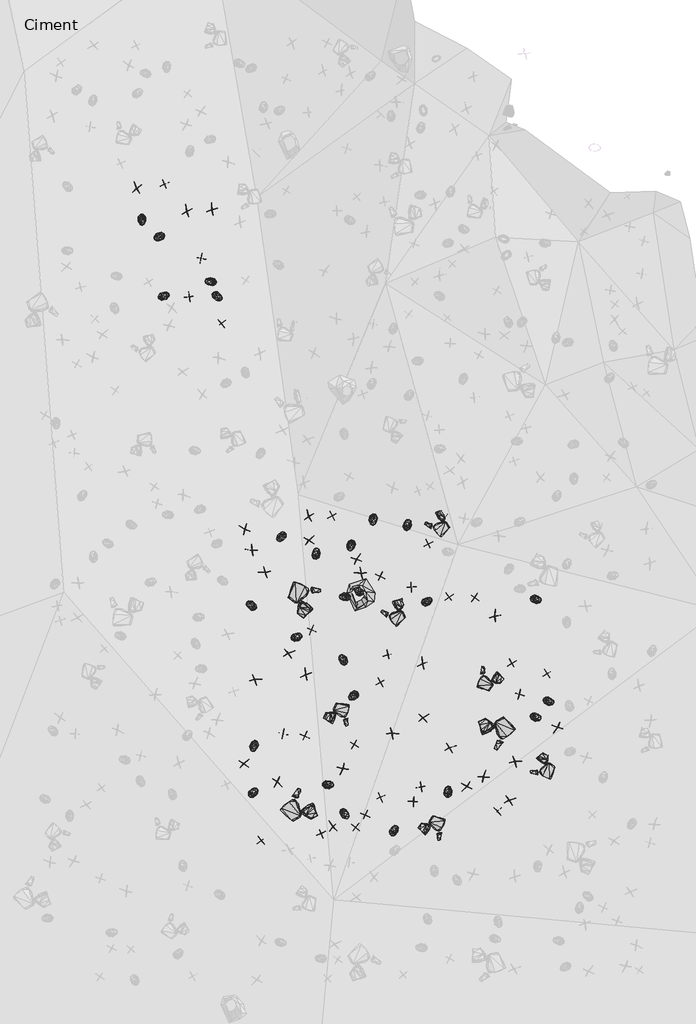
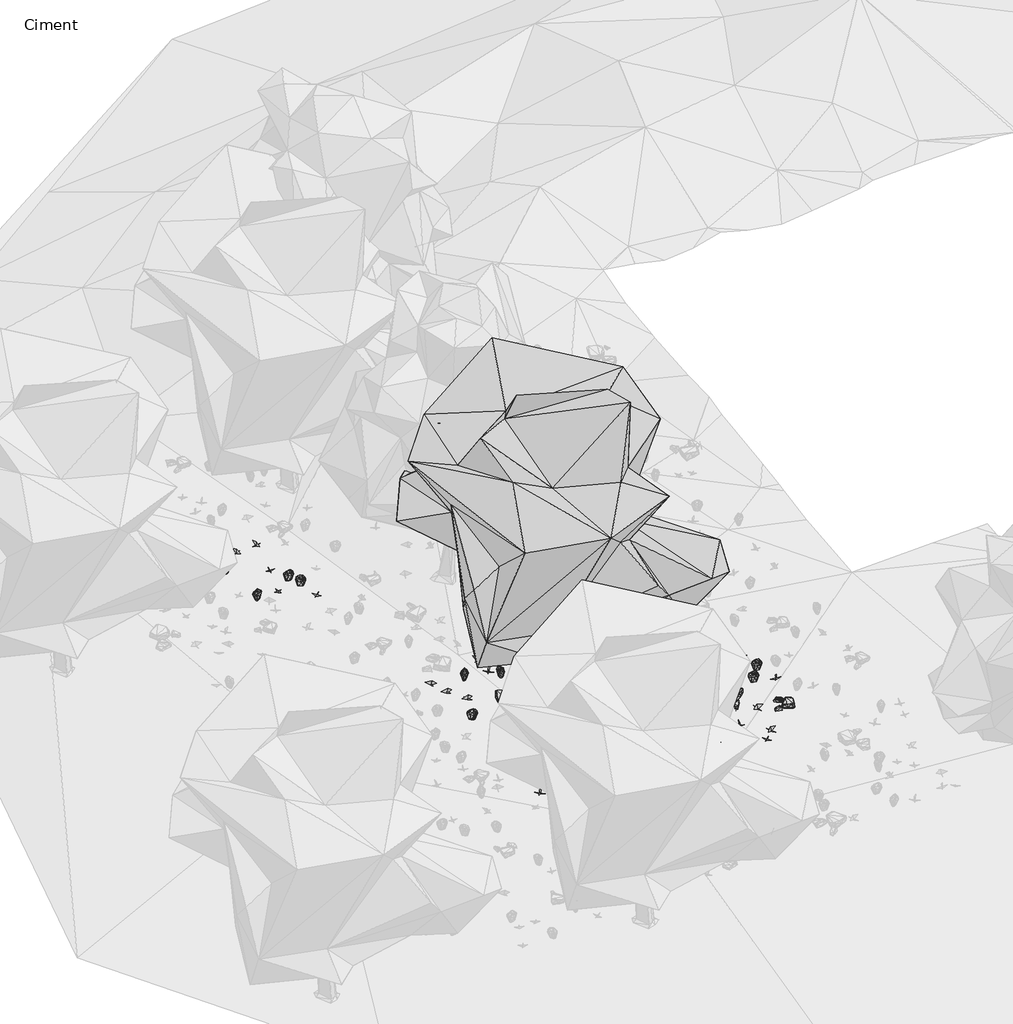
# One storey, part 8 of 30: 90 geographic elements.
"""IFC4 building model written with IfcOpenShell, lengths in millimetres."""

from ifc_helpers import new_model, si_unit, origin, place, context, project, spatial, transform, mapped, element, save
from components import enscape_assetdefinition_bush_025_fern_enscape_5718bf32, enscape_assetdefinition_bush_054_plant_09_version_2_enscape_7b546a12, enscape_assetdefinition_bush_062_plant_09_version_3_enscape_ccf8c8eb, enscape_assetdefinition_deciduous_tree_029_elm_enscape_e4c49baf, enscape_assetdefinition_stone_013_group_enscape_516da325, enscape_assetdefinition_stone_013_group_enscape_db9b3e91

model = new_model("IFC4")

# Units and contexts
model_context = context("Model", 3, world=origin())
ifc_project = project(units=[si_unit("LENGTHUNIT", "METRE", prefix="MILLI")], contexts=[model_context])

# Site, building, storey
site = spatial("IfcSite", under=ifc_project)
building = spatial("IfcBuilding", under=site)
storey = spatial("IfcBuildingStorey", under=building, Name="Ciment", Elevation=-1500.0)

# Geographic elements
placement = place(None, origin())
enscape_assetdefinition_bush_025_fern_enscape_shape = enscape_assetdefinition_bush_025_fern_enscape_5718bf32(model_context)
element("IfcGeographicElement", 1, ObjectType="Enscape AssetDefinition - Bush 025 Fern : Enscape AssetDefinition - Bush 025 Fern", at=placement, inside=storey, context=model_context, shape_type="MappedRepresentation", body=[
    mapped(enscape_assetdefinition_bush_025_fern_enscape_shape, transform((-13719.6578979, -14634.2067719, -1984.1752052), x_axis=(0.9903845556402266, 0.1383417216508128, 0.0), y_axis=(-0.1383417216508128, 0.9903845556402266, 0.0), z_axis=(0.0, 0.0, 1.0))),
])
element("IfcGeographicElement", 2, ObjectType="Enscape AssetDefinition - Bush 025 Fern : Enscape AssetDefinition - Bush 025 Fern", at=placement, inside=storey, context=model_context, shape_type="MappedRepresentation", body=[
    mapped(enscape_assetdefinition_bush_025_fern_enscape_shape, transform((-13326.6649246, -10060.4276657, -1879.3945312), x_axis=(-0.9968542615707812, -0.07925642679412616, 0.0), y_axis=(0.07925642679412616, -0.9968542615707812, 0.0), z_axis=(0.0, 0.0, 1.0))),
])
element("IfcGeographicElement", 3, ObjectType="Enscape AssetDefinition - Bush 025 Fern : Enscape AssetDefinition - Bush 025 Fern", at=placement, inside=storey, context=model_context, shape_type="MappedRepresentation", body=[
    mapped(enscape_assetdefinition_bush_025_fern_enscape_shape, transform((-13116.350174, -12467.5197601, -1879.3325424), x_axis=(-0.7084550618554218, -0.7057559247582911, 0.0), y_axis=(0.7057559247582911, -0.7084550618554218, 0.0), z_axis=(0.0, 0.0, 1.0))),
])
element("IfcGeographicElement", 4, ObjectType="Enscape AssetDefinition - Bush 025 Fern : Enscape AssetDefinition - Bush 025 Fern", at=placement, inside=storey, context=model_context, shape_type="MappedRepresentation", body=[
    mapped(enscape_assetdefinition_bush_025_fern_enscape_shape, transform((-11796.754837, -8313.0111694, -1644.9592113), x_axis=(0.17525786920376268, 0.9845225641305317, 0.0), y_axis=(-0.9845225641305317, 0.17525786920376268, 0.0), z_axis=(0.0, 0.0, 1.0))),
])
element("IfcGeographicElement", 5, ObjectType="Enscape AssetDefinition - Bush 025 Fern : Enscape AssetDefinition - Bush 025 Fern", at=placement, inside=storey, context=model_context, shape_type="MappedRepresentation", body=[
    mapped(enscape_assetdefinition_bush_025_fern_enscape_shape, transform((-15535.4719162, -13693.6130524, -2000.0), x_axis=(-0.2224626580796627, -0.9749412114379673, 0.0), y_axis=(0.9749412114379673, -0.2224626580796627, 0.0), z_axis=(0.0, 0.0, 1.0))),
])
element("IfcGeographicElement", 6, ObjectType="Enscape AssetDefinition - Bush 025 Fern : Enscape AssetDefinition - Bush 025 Fern", at=placement, inside=storey, context=model_context, shape_type="MappedRepresentation", body=[
    mapped(enscape_assetdefinition_bush_025_fern_enscape_shape, transform((-12985.8837128, -9904.176712, -1832.4915171), x_axis=(-0.6513720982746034, 0.7587584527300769, 0.0), y_axis=(-0.7587584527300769, -0.6513720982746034, 0.0), z_axis=(0.0, 0.0, 1.0))),
])
element("IfcGeographicElement", 7, ObjectType="Enscape AssetDefinition - Bush 025 Fern : Enscape AssetDefinition - Bush 025 Fern", at=placement, inside=storey, context=model_context, shape_type="MappedRepresentation", body=[
    mapped(enscape_assetdefinition_bush_025_fern_enscape_shape, transform((-15539.2799377, -14818.9258575, -2000.0), x_axis=(0.5987200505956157, 0.8009583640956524, 0.0), y_axis=(-0.8009583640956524, 0.5987200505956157, 0.0), z_axis=(0.0, 0.0, 1.0))),
])
element("IfcGeographicElement", 8, ObjectType="Enscape AssetDefinition - Bush 025 Fern : Enscape AssetDefinition - Bush 025 Fern", at=placement, inside=storey, context=model_context, shape_type="MappedRepresentation", body=[
    mapped(enscape_assetdefinition_bush_025_fern_enscape_shape, transform((-14870.557785, -8609.3769073, -2000.0), x_axis=(-0.5475795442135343, -0.8367536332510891, 0.0), y_axis=(0.8367536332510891, -0.5475795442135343, 0.0), z_axis=(0.0, 0.0, 1.0))),
])
element("IfcGeographicElement", 9, ObjectType="Enscape AssetDefinition - Bush 025 Fern : Enscape AssetDefinition - Bush 025 Fern", at=placement, inside=storey, context=model_context, shape_type="MappedRepresentation", body=[
    mapped(enscape_assetdefinition_bush_025_fern_enscape_shape, transform((-13325.9849548, -15345.7651138, -1940.2848482), x_axis=(0.7220434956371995, -0.691847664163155, 0.0), y_axis=(0.691847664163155, 0.7220434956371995, 0.0), z_axis=(0.0, 0.0, 1.0))),
])
element("IfcGeographicElement", 10, ObjectType="Enscape AssetDefinition - Bush 025 Fern : Enscape AssetDefinition - Bush 025 Fern", at=placement, inside=storey, context=model_context, shape_type="MappedRepresentation", body=[
    mapped(enscape_assetdefinition_bush_025_fern_enscape_shape, transform((-8679.233551, -12991.5094376, -1569.719553), x_axis=(0.9857635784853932, -0.16813734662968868, 0.0), y_axis=(0.16813734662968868, 0.9857635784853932, 0.0), z_axis=(0.0, 0.0, 1.0))),
])
element("IfcGeographicElement", 11, ObjectType="Enscape AssetDefinition - Bush 025 Fern : Enscape AssetDefinition - Bush 025 Fern", at=placement, inside=storey, context=model_context, shape_type="MappedRepresentation", body=[
    mapped(enscape_assetdefinition_bush_025_fern_enscape_shape, transform((-16586.7385864, -2403.2783508, -1999.9998808), x_axis=(-0.9987314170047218, 0.05035431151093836, 0.0), y_axis=(-0.05035431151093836, -0.9987314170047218, 0.0), z_axis=(0.0, 0.0, 1.0))),
])
element("IfcGeographicElement", 12, ObjectType="Enscape AssetDefinition - Bush 025 Fern : Enscape AssetDefinition - Bush 025 Fern", at=placement, inside=storey, context=model_context, shape_type="MappedRepresentation", body=[
    mapped(enscape_assetdefinition_bush_025_fern_enscape_shape, transform((-12118.0391312, -15739.3894196, -1856.6175699), x_axis=(0.4254606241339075, 0.9049769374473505, 0.0), y_axis=(-0.9049769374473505, 0.4254606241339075, 0.0), z_axis=(0.0, 0.0, 1.0))),
])
element("IfcGeographicElement", 13, ObjectType="Enscape AssetDefinition - Bush 025 Fern : Enscape AssetDefinition - Bush 025 Fern", at=placement, inside=storey, context=model_context, shape_type="MappedRepresentation", body=[
    mapped(enscape_assetdefinition_bush_025_fern_enscape_shape, transform((-8360.414505, -12606.3938141, -1537.9221439), x_axis=(0.9773561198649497, -0.2116010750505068, 0.0), y_axis=(0.2116010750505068, 0.9773561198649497, 0.0), z_axis=(0.0, 0.0, 1.0))),
])
element("IfcGeographicElement", 14, ObjectType="Enscape AssetDefinition - Bush 025 Fern : Enscape AssetDefinition - Bush 025 Fern", at=placement, inside=storey, context=model_context, shape_type="MappedRepresentation", body=[
    mapped(enscape_assetdefinition_bush_025_fern_enscape_shape, transform((-14486.243248, -11044.2218781, -2000.0), x_axis=(0.8874941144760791, 0.4608190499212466, 0.0), y_axis=(-0.4608190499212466, 0.8874941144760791, 0.0), z_axis=(0.0, 0.0, 1.0))),
])
element("IfcGeographicElement", 15, ObjectType="Enscape AssetDefinition - Bush 025 Fern : Enscape AssetDefinition - Bush 025 Fern", at=placement, inside=storey, context=model_context, shape_type="MappedRepresentation", body=[
    mapped(enscape_assetdefinition_bush_025_fern_enscape_shape, transform((-16418.8270569, -2774.2729187, -2000.0), x_axis=(0.8705373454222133, -0.4921023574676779, 0.0), y_axis=(0.4921023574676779, 0.8705373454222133, 0.0), z_axis=(0.0, 0.0, 1.0))),
])
element("IfcGeographicElement", 16, ObjectType="Enscape AssetDefinition - Bush 025 Fern : Enscape AssetDefinition - Bush 025 Fern", at=placement, inside=storey, context=model_context, shape_type="MappedRepresentation", body=[
    mapped(enscape_assetdefinition_bush_025_fern_enscape_shape, transform((-13361.8402481, -11585.7982635, -1901.6488791), x_axis=(-0.5956452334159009, 0.8032476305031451, 0.0), y_axis=(-0.8032476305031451, -0.5956452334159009, 0.0), z_axis=(0.0, 0.0, 1.0))),
])
element("IfcGeographicElement", 17, ObjectType="Enscape AssetDefinition - Bush 025 Fern : Enscape AssetDefinition - Bush 025 Fern", at=placement, inside=storey, context=model_context, shape_type="MappedRepresentation", body=[
    mapped(enscape_assetdefinition_bush_025_fern_enscape_shape, transform((-18258.3427429, -911.2911224, -1999.9998808), x_axis=(0.17856568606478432, -0.9839279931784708, 0.0), y_axis=(0.9839279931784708, 0.17856568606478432, 0.0), z_axis=(0.0, 0.0, 1.0))),
])
element("IfcGeographicElement", 18, ObjectType="Enscape AssetDefinition - Bush 025 Fern : Enscape AssetDefinition - Bush 025 Fern", at=placement, inside=storey, context=model_context, shape_type="MappedRepresentation", body=[
    mapped(enscape_assetdefinition_bush_025_fern_enscape_shape, transform((-13177.4244308, -8820.1332092, -1845.333457), x_axis=(-0.13979803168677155, -0.9901800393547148, 0.0), y_axis=(0.9901800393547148, -0.13979803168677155, 0.0), z_axis=(0.0, 0.0, 1.0))),
])
element("IfcGeographicElement", 19, ObjectType="Enscape AssetDefinition - Bush 025 Fern : Enscape AssetDefinition - Bush 025 Fern", at=placement, inside=storey, context=model_context, shape_type="MappedRepresentation", body=[
    mapped(enscape_assetdefinition_bush_025_fern_enscape_shape, transform((-12636.9419098, -8195.5070496, -1766.5976286), x_axis=(-0.00019454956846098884, -0.9999999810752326, 0.0), y_axis=(0.9999999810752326, -0.00019454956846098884, 0.0), z_axis=(0.0, 0.0, 1.0))),
])
element("IfcGeographicElement", 20, ObjectType="Enscape AssetDefinition - Bush 025 Fern : Enscape AssetDefinition - Bush 025 Fern", at=placement, inside=storey, context=model_context, shape_type="MappedRepresentation", body=[
    mapped(enscape_assetdefinition_bush_025_fern_enscape_shape, transform((-11317.440033, -10180.1967621, -1614.8686409), x_axis=(0.8137922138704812, 0.58115594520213, 0.0), y_axis=(-0.58115594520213, 0.8137922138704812, 0.0), z_axis=(0.0, 0.0, 1.0))),
])
element("IfcGeographicElement", 21, ObjectType="Enscape AssetDefinition - Bush 025 Fern : Enscape AssetDefinition - Bush 025 Fern", at=placement, inside=storey, context=model_context, shape_type="MappedRepresentation", body=[
    mapped(enscape_assetdefinition_bush_025_fern_enscape_shape, transform((-8671.3943481, -10133.0394745, -1455.3124905), x_axis=(0.9908873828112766, -0.1346929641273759, 0.0), y_axis=(0.1346929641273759, 0.9908873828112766, 0.0), z_axis=(0.0, 0.0, 1.0))),
])
element("IfcGeographicElement", 22, ObjectType="Enscape AssetDefinition - Bush 025 Fern : Enscape AssetDefinition - Bush 025 Fern", at=placement, inside=storey, context=model_context, shape_type="MappedRepresentation", body=[
    mapped(enscape_assetdefinition_bush_025_fern_enscape_shape, transform((-17715.3339386, -2757.5302124, -1999.9998808), x_axis=(0.8753885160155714, 0.4834200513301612, 0.0), y_axis=(-0.4834200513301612, 0.8753885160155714, 0.0), z_axis=(0.0, 0.0, 1.0))),
])
element("IfcGeographicElement", 23, ObjectType="Enscape AssetDefinition - Bush 025 Fern : Enscape AssetDefinition - Bush 025 Fern", at=placement, inside=storey, context=model_context, shape_type="MappedRepresentation", body=[
    mapped(enscape_assetdefinition_bush_025_fern_enscape_shape, transform((-17837.5339508, -1318.71593, -1999.9998808), x_axis=(-0.8460780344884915, -0.5330590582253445, 0.0), y_axis=(0.5330590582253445, -0.8460780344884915, 0.0), z_axis=(0.0, 0.0, 1.0))),
])
element("IfcGeographicElement", 24, ObjectType="Enscape AssetDefinition - Bush 025 Fern : Enscape AssetDefinition - Bush 025 Fern", at=placement, inside=storey, context=model_context, shape_type="MappedRepresentation", body=[
    mapped(enscape_assetdefinition_bush_025_fern_enscape_shape, transform((-10809.047699, -14792.9620743, -1751.3799667), x_axis=(-0.10500228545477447, 0.994471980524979, 0.0), y_axis=(-0.994471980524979, -0.10500228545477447, 0.0), z_axis=(0.0, 0.0, 1.0))),
])
element("IfcGeographicElement", 25, ObjectType="Enscape AssetDefinition - Bush 025 Fern : Enscape AssetDefinition - Bush 025 Fern", at=placement, inside=storey, context=model_context, shape_type="MappedRepresentation", body=[
    mapped(enscape_assetdefinition_bush_025_fern_enscape_shape, transform((-15596.1408615, -10268.0635452, -2000.0), x_axis=(-0.8809618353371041, 0.4731873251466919, 0.0), y_axis=(-0.4731873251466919, -0.8809618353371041, 0.0), z_axis=(0.0, 0.0, 1.0))),
])
element("IfcGeographicElement", 26, ObjectType="Enscape AssetDefinition - Bush 025 Fern : Enscape AssetDefinition - Bush 025 Fern", at=placement, inside=storey, context=model_context, shape_type="MappedRepresentation", body=[
    mapped(enscape_assetdefinition_bush_025_fern_enscape_shape, transform((-14014.1639709, -9010.4846954, -1958.2667351), x_axis=(0.04009681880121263, 0.9991957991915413, 0.0), y_axis=(-0.9991957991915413, 0.04009681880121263, 0.0), z_axis=(0.0, 0.0, 1.0))),
])
enscape_assetdefinition_bush_054_plant_09_version_2_enscape_shape = enscape_assetdefinition_bush_054_plant_09_version_2_enscape_7b546a12(model_context)
element("IfcGeographicElement", 27, ObjectType="Enscape AssetDefinition - Bush 054 Plant 09, Version 2 : Enscape AssetDefinition - Bush 054 Plant 09, Version 2", at=placement, inside=storey, context=model_context, shape_type="MappedRepresentation", body=[
    mapped(enscape_assetdefinition_bush_054_plant_09_version_2_enscape_shape, transform((-13892.0211792, -15814.5112991, -2000.0), x_axis=(-0.42888223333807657, 0.9033604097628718, 0.0), y_axis=(-0.9033604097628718, -0.42888223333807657, 0.0), z_axis=(0.0, 0.0, 1.0))),
])
element("IfcGeographicElement", 28, ObjectType="Enscape AssetDefinition - Bush 054 Plant 09, Version 2 : Enscape AssetDefinition - Bush 054 Plant 09, Version 2", at=placement, inside=storey, context=model_context, shape_type="MappedRepresentation", body=[
    mapped(enscape_assetdefinition_bush_054_plant_09_version_2_enscape_shape, transform((-10793.1995392, -10070.7378387, -1562.228322), x_axis=(0.6428494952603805, -0.7659925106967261, 0.0), y_axis=(0.7659925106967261, 0.6428494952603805, 0.0), z_axis=(0.0, 0.0, 1.0))),
])
element("IfcGeographicElement", 29, ObjectType="Enscape AssetDefinition - Bush 054 Plant 09, Version 2 : Enscape AssetDefinition - Bush 054 Plant 09, Version 2", at=placement, inside=storey, context=model_context, shape_type="MappedRepresentation", body=[
    mapped(enscape_assetdefinition_bush_054_plant_09_version_2_enscape_shape, transform((-12277.9827118, -11474.1382599, -1756.9192648), x_axis=(0.27146856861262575, -0.9624473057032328, 0.0), y_axis=(0.9624473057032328, 0.27146856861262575, 0.0), z_axis=(0.0, 0.0, 1.0))),
])
element("IfcGeographicElement", 30, ObjectType="Enscape AssetDefinition - Bush 054 Plant 09, Version 2 : Enscape AssetDefinition - Bush 054 Plant 09, Version 2", at=placement, inside=storey, context=model_context, shape_type="MappedRepresentation", body=[
    mapped(enscape_assetdefinition_bush_054_plant_09_version_2_enscape_shape, transform((-14126.7089844, -10865.0684357, -1994.5585728), x_axis=(-0.9405869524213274, 0.3395529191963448, 0.0), y_axis=(-0.3395529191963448, -0.9405869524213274, 0.0), z_axis=(0.0, 0.0, 1.0))),
])
element("IfcGeographicElement", 31, ObjectType="Enscape AssetDefinition - Bush 054 Plant 09, Version 2 : Enscape AssetDefinition - Bush 054 Plant 09, Version 2", at=placement, inside=storey, context=model_context, shape_type="MappedRepresentation", body=[
    mapped(enscape_assetdefinition_bush_054_plant_09_version_2_enscape_shape, transform((-10159.9569321, -10081.8920135, -1530.0227404), x_axis=(-0.8554348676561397, 0.5179104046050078, 0.0), y_axis=(-0.5179104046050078, -0.8554348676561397, 0.0), z_axis=(0.0, 0.0, 1.0))),
])
element("IfcGeographicElement", 32, ObjectType="Enscape AssetDefinition - Bush 054 Plant 09, Version 2 : Enscape AssetDefinition - Bush 054 Plant 09, Version 2", at=placement, inside=storey, context=model_context, shape_type="MappedRepresentation", body=[
    mapped(enscape_assetdefinition_bush_054_plant_09_version_2_enscape_shape, transform((-14816.3032532, -13387.4568939, -2000.0), x_axis=(-0.9888610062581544, 0.14884189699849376, 0.0), y_axis=(-0.14884189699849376, -0.9888610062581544, 0.0), z_axis=(0.0, 0.0, 1.0))),
])
element("IfcGeographicElement", 33, ObjectType="Enscape AssetDefinition - Bush 054 Plant 09, Version 2 : Enscape AssetDefinition - Bush 054 Plant 09, Version 2", at=placement, inside=storey, context=model_context, shape_type="MappedRepresentation", body=[
    mapped(enscape_assetdefinition_bush_054_plant_09_version_2_enscape_shape, transform((-9070.2209473, -12426.1951447, -1567.3332214), x_axis=(-0.9807696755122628, 0.19516875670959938, 0.0), y_axis=(-0.19516875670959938, -0.9807696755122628, 0.0), z_axis=(0.0, 0.0, 1.0))),
])
element("IfcGeographicElement", 34, ObjectType="Enscape AssetDefinition - Bush 054 Plant 09, Version 2 : Enscape AssetDefinition - Bush 054 Plant 09, Version 2", at=placement, inside=storey, context=model_context, shape_type="MappedRepresentation", body=[
    mapped(enscape_assetdefinition_bush_054_plant_09_version_2_enscape_shape, transform((-13087.1505737, -13651.0906219, -1889.124155), x_axis=(-0.884099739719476, 0.4672982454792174, 0.0), y_axis=(-0.4672982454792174, -0.884099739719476, 0.0), z_axis=(0.0, 0.0, 1.0))),
])
element("IfcGeographicElement", 35, ObjectType="Enscape AssetDefinition - Bush 054 Plant 09, Version 2 : Enscape AssetDefinition - Bush 054 Plant 09, Version 2", at=placement, inside=storey, context=model_context, shape_type="MappedRepresentation", body=[
    mapped(enscape_assetdefinition_bush_054_plant_09_version_2_enscape_shape, transform((-12458.6982727, -12146.5091705, -1788.5932922), x_axis=(0.8541403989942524, 0.5200424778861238, 0.0), y_axis=(-0.5200424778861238, 0.8541403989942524, 0.0), z_axis=(0.0, 0.0, 1.0))),
])
element("IfcGeographicElement", 36, ObjectType="Enscape AssetDefinition - Bush 054 Plant 09, Version 2 : Enscape AssetDefinition - Bush 054 Plant 09, Version 2", at=placement, inside=storey, context=model_context, shape_type="MappedRepresentation", body=[
    mapped(enscape_assetdefinition_bush_054_plant_09_version_2_enscape_shape, transform((-11472.694397, -14688.4326935, -1781.4289331), x_axis=(0.9814997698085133, 0.19146331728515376, 0.0), y_axis=(-0.19146331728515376, 0.9814997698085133, 0.0), z_axis=(0.0, 0.0, 1.0))),
])
element("IfcGeographicElement", 37, ObjectType="Enscape AssetDefinition - Bush 054 Plant 09, Version 2 : Enscape AssetDefinition - Bush 054 Plant 09, Version 2", at=placement, inside=storey, context=model_context, shape_type="MappedRepresentation", body=[
    mapped(enscape_assetdefinition_bush_054_plant_09_version_2_enscape_shape, transform((-17105.556488, -2781.9042206, -1999.9998808), x_axis=(0.9845447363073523, 0.1751332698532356, 0.0), y_axis=(-0.1751332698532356, 0.9845447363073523, 0.0), z_axis=(0.0, 0.0, 1.0))),
])
element("IfcGeographicElement", 38, ObjectType="Enscape AssetDefinition - Bush 054 Plant 09, Version 2 : Enscape AssetDefinition - Bush 054 Plant 09, Version 2", at=placement, inside=storey, context=model_context, shape_type="MappedRepresentation", body=[
    mapped(enscape_assetdefinition_bush_054_plant_09_version_2_enscape_shape, transform((-16811.4337921, -1839.9238586, -1999.9998808), x_axis=(-0.9892102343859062, 0.14650294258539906, 0.0), y_axis=(-0.14650294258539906, -0.9892102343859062, 0.0), z_axis=(0.0, 0.0, 1.0))),
])
element("IfcGeographicElement", 39, ObjectType="Enscape AssetDefinition - Bush 054 Plant 09, Version 2 : Enscape AssetDefinition - Bush 054 Plant 09, Version 2", at=placement, inside=storey, context=model_context, shape_type="MappedRepresentation", body=[
    mapped(enscape_assetdefinition_bush_054_plant_09_version_2_enscape_shape, transform((-11658.6837769, -15045.5379486, -1805.2606583), x_axis=(0.9999875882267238, 0.0049823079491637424, 0.0), y_axis=(-0.0049823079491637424, 0.9999875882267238, 0.0), z_axis=(0.0, 0.0, 1.0))),
])
element("IfcGeographicElement", 40, ObjectType="Enscape AssetDefinition - Bush 054 Plant 09, Version 2 : Enscape AssetDefinition - Bush 054 Plant 09, Version 2", at=placement, inside=storey, context=model_context, shape_type="MappedRepresentation", body=[
    mapped(enscape_assetdefinition_bush_054_plant_09_version_2_enscape_shape, transform((-11702.3658752, -9822.1759796, -1661.6802216), x_axis=(-0.9932121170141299, -0.11631719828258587, 0.0), y_axis=(0.11631719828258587, -0.9932121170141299, 0.0), z_axis=(0.0, 0.0, 1.0))),
])
element("IfcGeographicElement", 41, ObjectType="Enscape AssetDefinition - Bush 054 Plant 09, Version 2 : Enscape AssetDefinition - Bush 054 Plant 09, Version 2", at=placement, inside=storey, context=model_context, shape_type="MappedRepresentation", body=[
    mapped(enscape_assetdefinition_bush_054_plant_09_version_2_enscape_shape, transform((-13060.1596832, -15660.364151, -1908.7343216), x_axis=(-0.5707366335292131, -0.8211331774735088, 0.0), y_axis=(0.8211331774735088, -0.5707366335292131, 0.0), z_axis=(0.0, 0.0, 1.0))),
])
element("IfcGeographicElement", 42, ObjectType="Enscape AssetDefinition - Bush 054 Plant 09, Version 2 : Enscape AssetDefinition - Bush 054 Plant 09, Version 2", at=placement, inside=storey, context=model_context, shape_type="MappedRepresentation", body=[
    mapped(enscape_assetdefinition_bush_054_plant_09_version_2_enscape_shape, transform((-15353.2295227, -15990.8924103, -2034.0294838), x_axis=(0.7594251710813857, 0.6505946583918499, 0.0), y_axis=(-0.6505946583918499, 0.7594251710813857, 0.0), z_axis=(0.0, 0.0, 1.0))),
])
element("IfcGeographicElement", 43, ObjectType="Enscape AssetDefinition - Bush 054 Plant 09, Version 2 : Enscape AssetDefinition - Bush 054 Plant 09, Version 2", at=placement, inside=storey, context=model_context, shape_type="MappedRepresentation", body=[
    mapped(enscape_assetdefinition_bush_054_plant_09_version_2_enscape_shape, transform((-14298.4790802, -13445.0206757, -2000.0), x_axis=(-0.34829103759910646, -0.9373864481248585, 0.0), y_axis=(0.9373864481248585, -0.34829103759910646, 0.0), z_axis=(0.0, 0.0, 1.0))),
])
element("IfcGeographicElement", 44, ObjectType="Enscape AssetDefinition - Bush 054 Plant 09, Version 2 : Enscape AssetDefinition - Bush 054 Plant 09, Version 2", at=placement, inside=storey, context=model_context, shape_type="MappedRepresentation", body=[
    mapped(enscape_assetdefinition_bush_054_plant_09_version_2_enscape_shape, transform((-13626.4314651, -8101.4041901, -1896.463871), x_axis=(0.8552108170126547, 0.5182802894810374, 0.0), y_axis=(-0.5182802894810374, 0.8552108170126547, 0.0), z_axis=(0.0, 0.0, 1.0))),
])
element("IfcGeographicElement", 45, ObjectType="Enscape AssetDefinition - Bush 054 Plant 09, Version 2 : Enscape AssetDefinition - Bush 054 Plant 09, Version 2", at=placement, inside=storey, context=model_context, shape_type="MappedRepresentation", body=[
    mapped(enscape_assetdefinition_bush_054_plant_09_version_2_enscape_shape, transform((-16322.0233917, -3418.1499481, -2000.0), x_axis=(-0.7417731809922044, -0.6706508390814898, 0.0), y_axis=(0.6706508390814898, -0.7417731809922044, 0.0), z_axis=(0.0, 0.0, 1.0))),
])
element("IfcGeographicElement", 46, ObjectType="Enscape AssetDefinition - Bush 054 Plant 09, Version 2 : Enscape AssetDefinition - Bush 054 Plant 09, Version 2", at=placement, inside=storey, context=model_context, shape_type="MappedRepresentation", body=[
    mapped(enscape_assetdefinition_bush_054_plant_09_version_2_enscape_shape, transform((-8403.1629562, -11935.6555939, -1513.3755207), x_axis=(0.8224795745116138, 0.5687946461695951, 0.0), y_axis=(-0.5687946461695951, 0.8224795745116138, 0.0), z_axis=(0.0, 0.0, 1.0))),
])
element("IfcGeographicElement", 47, ObjectType="Enscape AssetDefinition - Bush 054 Plant 09, Version 2 : Enscape AssetDefinition - Bush 054 Plant 09, Version 2", at=placement, inside=storey, context=model_context, shape_type="MappedRepresentation", body=[
    mapped(enscape_assetdefinition_bush_054_plant_09_version_2_enscape_shape, transform((-12464.4794464, -9562.6888275, -1759.5475912), x_axis=(-0.35326382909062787, -0.9355237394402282, 0.0), y_axis=(0.9355237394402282, -0.35326382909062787, 0.0), z_axis=(0.0, 0.0, 1.0))),
])
element("IfcGeographicElement", 48, ObjectType="Enscape AssetDefinition - Bush 054 Plant 09, Version 2 : Enscape AssetDefinition - Bush 054 Plant 09, Version 2", at=placement, inside=storey, context=model_context, shape_type="MappedRepresentation", body=[
    mapped(enscape_assetdefinition_bush_054_plant_09_version_2_enscape_shape, transform((-11297.662735, -8782.7796936, -1596.128583), x_axis=(0.4938073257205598, -0.8695713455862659, 0.0), y_axis=(0.8695713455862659, 0.4938073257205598, 0.0), z_axis=(0.0, 0.0, 1.0))),
])
element("IfcGeographicElement", 49, ObjectType="Enscape AssetDefinition - Bush 054 Plant 09, Version 2 : Enscape AssetDefinition - Bush 054 Plant 09, Version 2", at=placement, inside=storey, context=model_context, shape_type="MappedRepresentation", body=[
    mapped(enscape_assetdefinition_bush_054_plant_09_version_2_enscape_shape, transform((-9266.7074203, -11679.8725128, -1547.6984978), x_axis=(0.5610076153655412, -0.8278106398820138, 0.0), y_axis=(0.8278106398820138, 0.5610076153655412, 0.0), z_axis=(0.0, 0.0, 1.0))),
])
element("IfcGeographicElement", 50, ObjectType="Enscape AssetDefinition - Bush 054 Plant 09, Version 2 : Enscape AssetDefinition - Bush 054 Plant 09, Version 2", at=placement, inside=storey, context=model_context, shape_type="MappedRepresentation", body=[
    mapped(enscape_assetdefinition_bush_054_plant_09_version_2_enscape_shape, transform((-12827.5222778, -15360.3343964, -1878.0814409), x_axis=(-0.3757129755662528, -0.9267360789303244, 0.0), y_axis=(0.9267360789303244, -0.3757129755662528, 0.0), z_axis=(0.0, 0.0, 1.0))),
])
element("IfcGeographicElement", 51, ObjectType="Enscape AssetDefinition - Bush 054 Plant 09, Version 2 : Enscape AssetDefinition - Bush 054 Plant 09, Version 2", at=placement, inside=storey, context=model_context, shape_type="MappedRepresentation", body=[
    mapped(enscape_assetdefinition_bush_054_plant_09_version_2_enscape_shape, transform((-17709.3887329, -43.4017144, -1999.9998808), x_axis=(0.4387954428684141, -0.8985869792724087, 0.0), y_axis=(0.8985869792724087, 0.4387954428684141, 0.0), z_axis=(0.0, 0.0, 1.0))),
])
element("IfcGeographicElement", 52, ObjectType="Enscape AssetDefinition - Bush 054 Plant 09, Version 2 : Enscape AssetDefinition - Bush 054 Plant 09, Version 2", at=placement, inside=storey, context=model_context, shape_type="MappedRepresentation", body=[
    mapped(enscape_assetdefinition_bush_054_plant_09_version_2_enscape_shape, transform((-9608.5157394, -15266.5576935, -1756.0130358), x_axis=(-0.7076741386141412, -0.7065389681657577, 0.0), y_axis=(0.7065389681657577, -0.7076741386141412, 0.0), z_axis=(0.0, 0.0, 1.0))),
])
element("IfcGeographicElement", 53, ObjectType="Enscape AssetDefinition - Bush 054 Plant 09, Version 2 : Enscape AssetDefinition - Bush 054 Plant 09, Version 2", at=placement, inside=storey, context=model_context, shape_type="MappedRepresentation", body=[
    mapped(enscape_assetdefinition_bush_054_plant_09_version_2_enscape_shape, transform((-12455.6560516, -14928.5449982, -1841.6866064), x_axis=(-0.8943191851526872, -0.4474295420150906, 0.0), y_axis=(0.4474295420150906, -0.8943191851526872, 0.0), z_axis=(0.0, 0.0, 1.0))),
])
enscape_assetdefinition_bush_062_plant_09_version_3_enscape_shape = enscape_assetdefinition_bush_062_plant_09_version_3_enscape_ccf8c8eb(model_context)
element("IfcGeographicElement", 54, ObjectType="Enscape AssetDefinition - Bush 062 Plant 09, Version 3 : Enscape AssetDefinition - Bush 062 Plant 09, Version 3", at=placement, inside=storey, context=model_context, shape_type="MappedRepresentation", body=[
    mapped(enscape_assetdefinition_bush_062_plant_09_version_3_enscape_shape, transform((-14200.3755569, -8099.1458893, -1972.3960161), x_axis=(0.776147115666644, 0.6305518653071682, 0.0), y_axis=(-0.6305518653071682, 0.776147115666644, 0.0), z_axis=(0.0, 0.0, 1.0))),
])
element("IfcGeographicElement", 55, ObjectType="Enscape AssetDefinition - Bush 062 Plant 09, Version 3 : Enscape AssetDefinition - Bush 062 Plant 09, Version 3", at=placement, inside=storey, context=model_context, shape_type="MappedRepresentation", body=[
    mapped(enscape_assetdefinition_bush_062_plant_09_version_3_enscape_shape, transform((-15587.8219604, -8936.7256165, -2000.0), x_axis=(-0.2486082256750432, 0.968604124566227, 0.0), y_axis=(-0.968604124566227, -0.2486082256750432, 0.0), z_axis=(0.0, 0.0, 1.0))),
])
element("IfcGeographicElement", 56, ObjectType="Enscape AssetDefinition - Bush 062 Plant 09, Version 3 : Enscape AssetDefinition - Bush 062 Plant 09, Version 3", at=placement, inside=storey, context=model_context, shape_type="MappedRepresentation", body=[
    mapped(enscape_assetdefinition_bush_062_plant_09_version_3_enscape_shape, transform((-12161.3960266, -13375.9937286, -1764.5952702), x_axis=(0.2944899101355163, -0.9556545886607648, 0.0), y_axis=(0.9556545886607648, 0.2944899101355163, 0.0), z_axis=(0.0, 0.0, 1.0))),
])
element("IfcGeographicElement", 57, ObjectType="Enscape AssetDefinition - Bush 062 Plant 09, Version 3 : Enscape AssetDefinition - Bush 062 Plant 09, Version 3", at=placement, inside=storey, context=model_context, shape_type="MappedRepresentation", body=[
    mapped(enscape_assetdefinition_bush_062_plant_09_version_3_enscape_shape, transform((-15769.5322037, -14110.2685928, -2000.0), x_axis=(0.8885622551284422, -0.45875605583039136, 0.0), y_axis=(0.45875605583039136, 0.8885622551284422, 0.0), z_axis=(0.0, 0.0, 1.0))),
])
element("IfcGeographicElement", 58, ObjectType="Enscape AssetDefinition - Bush 062 Plant 09, Version 3 : Enscape AssetDefinition - Bush 062 Plant 09, Version 3", at=placement, inside=storey, context=model_context, shape_type="MappedRepresentation", body=[
    mapped(enscape_assetdefinition_bush_062_plant_09_version_3_enscape_shape, transform((-17164.5050049, -690.3438568, -1999.9998808), x_axis=(0.8405035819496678, 0.541805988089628, 0.0), y_axis=(-0.541805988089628, 0.8405035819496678, 0.0), z_axis=(0.0, 0.0, 1.0))),
])
element("IfcGeographicElement", 59, ObjectType="Enscape AssetDefinition - Bush 062 Plant 09, Version 3 : Enscape AssetDefinition - Bush 062 Plant 09, Version 3", at=placement, inside=storey, context=model_context, shape_type="MappedRepresentation", body=[
    mapped(enscape_assetdefinition_bush_062_plant_09_version_3_enscape_shape, transform((-12937.1156693, -9491.9223785, -1821.2811947), x_axis=(-0.30252836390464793, 0.953140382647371, 0.0), y_axis=(-0.953140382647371, -0.30252836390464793, 0.0), z_axis=(0.0, 0.0, 1.0))),
])
element("IfcGeographicElement", 60, ObjectType="Enscape AssetDefinition - Bush 062 Plant 09, Version 3 : Enscape AssetDefinition - Bush 062 Plant 09, Version 3", at=placement, inside=storey, context=model_context, shape_type="MappedRepresentation", body=[
    mapped(enscape_assetdefinition_bush_062_plant_09_version_3_enscape_shape, transform((-10764.4309998, -13728.0139923, -1706.6062689), x_axis=(0.6388796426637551, -0.7693067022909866, 0.0), y_axis=(0.7693067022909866, 0.6388796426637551, 0.0), z_axis=(0.0, 0.0, 1.0))),
])
element("IfcGeographicElement", 61, ObjectType="Enscape AssetDefinition - Bush 062 Plant 09, Version 3 : Enscape AssetDefinition - Bush 062 Plant 09, Version 3", at=placement, inside=storey, context=model_context, shape_type="MappedRepresentation", body=[
    mapped(enscape_assetdefinition_bush_062_plant_09_version_3_enscape_shape, transform((-11410.4919434, -12994.6422577, -1710.6686831), x_axis=(0.7920904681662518, -0.6104037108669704, 0.0), y_axis=(0.6104037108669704, 0.7920904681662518, 0.0), z_axis=(0.0, 0.0, 1.0))),
])
element("IfcGeographicElement", 62, ObjectType="Enscape AssetDefinition - Bush 062 Plant 09, Version 3 : Enscape AssetDefinition - Bush 062 Plant 09, Version 3", at=placement, inside=storey, context=model_context, shape_type="MappedRepresentation", body=[
    mapped(enscape_assetdefinition_bush_062_plant_09_version_3_enscape_shape, transform((-11433.9237213, -11679.8534393, -1659.440279), x_axis=(0.8853069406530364, 0.46500711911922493, 0.0), y_axis=(-0.46500711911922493, 0.8853069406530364, 0.0), z_axis=(0.0, 0.0, 1.0))),
])
element("IfcGeographicElement", 63, ObjectType="Enscape AssetDefinition - Bush 062 Plant 09, Version 3 : Enscape AssetDefinition - Bush 062 Plant 09, Version 3", at=placement, inside=storey, context=model_context, shape_type="MappedRepresentation", body=[
    mapped(enscape_assetdefinition_bush_062_plant_09_version_3_enscape_shape, transform((-13615.4298782, -15637.389183, -1981.9555283), x_axis=(0.5649349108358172, 0.825135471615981, 0.0), y_axis=(-0.825135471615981, 0.5649349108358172, 0.0), z_axis=(0.0, 0.0, 1.0))),
])
element("IfcGeographicElement", 64, ObjectType="Enscape AssetDefinition - Bush 062 Plant 09, Version 3 : Enscape AssetDefinition - Bush 062 Plant 09, Version 3", at=placement, inside=storey, context=model_context, shape_type="MappedRepresentation", body=[
    mapped(enscape_assetdefinition_bush_062_plant_09_version_3_enscape_shape, transform((-10365.190506, -14679.5701981, -1723.9720821), x_axis=(-0.9290867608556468, 0.3698618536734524, 0.0), y_axis=(-0.3698618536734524, -0.9290867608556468, 0.0), z_axis=(0.0, 0.0, 1.0))),
])
element("IfcGeographicElement", 65, ObjectType="Enscape AssetDefinition - Bush 062 Plant 09, Version 3 : Enscape AssetDefinition - Bush 062 Plant 09, Version 3", at=placement, inside=storey, context=model_context, shape_type="MappedRepresentation", body=[
    mapped(enscape_assetdefinition_bush_062_plant_09_version_3_enscape_shape, transform((-16553.6270142, -648.3688354, -1999.9998808), x_axis=(0.9090173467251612, 0.4167582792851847, 0.0), y_axis=(-0.4167582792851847, 0.9090173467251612, 0.0), z_axis=(0.0, 0.0, 1.0))),
])
element("IfcGeographicElement", 66, ObjectType="Enscape AssetDefinition - Bush 062 Plant 09, Version 3 : Enscape AssetDefinition - Bush 062 Plant 09, Version 3", at=placement, inside=storey, context=model_context, shape_type="MappedRepresentation", body=[
    mapped(enscape_assetdefinition_bush_062_plant_09_version_3_enscape_shape, transform((-15269.0858841, -9470.4828262, -2000.0), x_axis=(-0.3843798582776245, 0.9231750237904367, 0.0), y_axis=(-0.9231750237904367, -0.3843798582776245, 0.0), z_axis=(0.0, 0.0, 1.0))),
])
element("IfcGeographicElement", 67, ObjectType="Enscape AssetDefinition - Bush 062 Plant 09, Version 3 : Enscape AssetDefinition - Bush 062 Plant 09, Version 3", at=placement, inside=storey, context=model_context, shape_type="MappedRepresentation", body=[
    mapped(enscape_assetdefinition_bush_062_plant_09_version_3_enscape_shape, transform((-13029.4799805, -9143.0721283, -1829.4796944), x_axis=(0.9794618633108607, -0.20162950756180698, 0.0), y_axis=(0.20162950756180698, 0.9794618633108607, 0.0), z_axis=(0.0, 0.0, 1.0))),
])
element("IfcGeographicElement", 68, ObjectType="Enscape AssetDefinition - Bush 062 Plant 09, Version 3 : Enscape AssetDefinition - Bush 062 Plant 09, Version 3", at=placement, inside=storey, context=model_context, shape_type="MappedRepresentation", body=[
    mapped(enscape_assetdefinition_bush_062_plant_09_version_3_enscape_shape, transform((-14683.5374832, -11432.264328, -2000.0), x_axis=(0.680119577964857, -0.733101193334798, 0.0), y_axis=(0.733101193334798, 0.680119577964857, 0.0), z_axis=(0.0, 0.0, 1.0))),
])
element("IfcGeographicElement", 69, ObjectType="Enscape AssetDefinition - Bush 062 Plant 09, Version 3 : Enscape AssetDefinition - Bush 062 Plant 09, Version 3", at=placement, inside=storey, context=model_context, shape_type="MappedRepresentation", body=[
    mapped(enscape_assetdefinition_bush_062_plant_09_version_3_enscape_shape, transform((-9948.2164383, -14425.9662628, -1692.3590899), x_axis=(0.997830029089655, 0.06584248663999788, 0.0), y_axis=(-0.06584248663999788, 0.997830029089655, 0.0), z_axis=(0.0, 0.0, 1.0))),
])
element("IfcGeographicElement", 70, ObjectType="Enscape AssetDefinition - Bush 062 Plant 09, Version 3 : Enscape AssetDefinition - Bush 062 Plant 09, Version 3", at=placement, inside=storey, context=model_context, shape_type="MappedRepresentation", body=[
    mapped(enscape_assetdefinition_bush_062_plant_09_version_3_enscape_shape, transform((-15495.8944321, -12075.5443573, -2000.0), x_axis=(0.4326700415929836, -0.9015523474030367, 0.0), y_axis=(0.9015523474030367, 0.4326700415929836, 0.0), z_axis=(0.0, 0.0, 1.0))),
])
element("IfcGeographicElement", 71, ObjectType="Enscape AssetDefinition - Bush 062 Plant 09, Version 3 : Enscape AssetDefinition - Bush 062 Plant 09, Version 3", at=placement, inside=storey, context=model_context, shape_type="MappedRepresentation", body=[
    mapped(enscape_assetdefinition_bush_062_plant_09_version_3_enscape_shape, transform((-13372.3058701, -14247.6511002, -1933.745265), x_axis=(-0.9992244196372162, 0.039377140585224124, 0.0), y_axis=(-0.039377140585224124, -0.9992244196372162, 0.0), z_axis=(0.0, 0.0, 1.0))),
])
element("IfcGeographicElement", 72, ObjectType="Enscape AssetDefinition - Bush 062 Plant 09, Version 3 : Enscape AssetDefinition - Bush 062 Plant 09, Version 3", at=placement, inside=storey, context=model_context, shape_type="MappedRepresentation", body=[
    mapped(enscape_assetdefinition_bush_062_plant_09_version_3_enscape_shape, transform((-8156.6143036, -13243.8793182, -1552.8380871), x_axis=(-0.9787351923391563, 0.2051278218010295, 0.0), y_axis=(-0.2051278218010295, -0.9787351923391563, 0.0), z_axis=(0.0, 0.0, 1.0))),
])
element("IfcGeographicElement", 73, ObjectType="Enscape AssetDefinition - Bush 062 Plant 09, Version 3 : Enscape AssetDefinition - Bush 062 Plant 09, Version 3", at=placement, inside=storey, context=model_context, shape_type="MappedRepresentation", body=[
    mapped(enscape_assetdefinition_bush_062_plant_09_version_3_enscape_shape, transform((-9311.0561371, -14998.8012314, -1727.4669409), x_axis=(0.6421911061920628, -0.7665445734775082, 0.0), y_axis=(0.7665445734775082, 0.6421911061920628, 0.0), z_axis=(0.0, 0.0, 1.0))),
])
element("IfcGeographicElement", 74, ObjectType="Enscape AssetDefinition - Bush 062 Plant 09, Version 3 : Enscape AssetDefinition - Bush 062 Plant 09, Version 3", at=placement, inside=storey, context=model_context, shape_type="MappedRepresentation", body=[
    mapped(enscape_assetdefinition_bush_062_plant_09_version_3_enscape_shape, transform((-18384.7999573, -133.3751678, -1999.9998808), x_axis=(0.7055568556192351, 0.7086533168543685, 0.0), y_axis=(-0.7086533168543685, 0.7055568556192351, 0.0), z_axis=(0.0, 0.0, 1.0))),
])
element("IfcGeographicElement", 75, ObjectType="Enscape AssetDefinition - Bush 062 Plant 09, Version 3 : Enscape AssetDefinition - Bush 062 Plant 09, Version 3", at=placement, inside=storey, context=model_context, shape_type="MappedRepresentation", body=[
    mapped(enscape_assetdefinition_bush_062_plant_09_version_3_enscape_shape, transform((-15762.7410889, -8420.9575653, -2000.0), x_axis=(0.15257209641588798, 0.9882923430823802, 0.0), y_axis=(-0.9882923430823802, 0.15257209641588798, 0.0), z_axis=(0.0, 0.0, 1.0))),
])
element("IfcGeographicElement", 76, ObjectType="Enscape AssetDefinition - Bush 062 Plant 09, Version 3 : Enscape AssetDefinition - Bush 062 Plant 09, Version 3", at=placement, inside=storey, context=model_context, shape_type="MappedRepresentation", body=[
    mapped(enscape_assetdefinition_bush_062_plant_09_version_3_enscape_shape, transform((-9173.9788055, -14059.3700409, -1637.8178596), x_axis=(0.4136957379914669, -0.9104151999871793, 0.0), y_axis=(0.9104151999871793, 0.4136957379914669, 0.0), z_axis=(0.0, 0.0, 1.0))),
])
element("IfcGeographicElement", 77, ObjectType="Enscape AssetDefinition - Bush 062 Plant 09, Version 3 : Enscape AssetDefinition - Bush 062 Plant 09, Version 3", at=placement, inside=storey, context=model_context, shape_type="MappedRepresentation", body=[
    mapped(enscape_assetdefinition_bush_062_plant_09_version_3_enscape_shape, transform((-14185.8024597, -8686.0485077, -1977.2386551), x_axis=(0.9159591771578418, -0.401271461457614, 0.0), y_axis=(0.401271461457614, 0.9159591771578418, 0.0), z_axis=(0.0, 0.0, 1.0))),
])
element("IfcGeographicElement", 78, ObjectType="Enscape AssetDefinition - Bush 062 Plant 09, Version 3 : Enscape AssetDefinition - Bush 062 Plant 09, Version 3", at=placement, inside=storey, context=model_context, shape_type="MappedRepresentation", body=[
    mapped(enscape_assetdefinition_bush_062_plant_09_version_3_enscape_shape, transform((-14954.7185898, -14569.2577362, -2000.0), x_axis=(-0.3612420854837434, -0.9324720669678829, 0.0), y_axis=(0.9324720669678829, -0.3612420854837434, 0.0), z_axis=(0.0, 0.0, 1.0))),
])
element("IfcGeographicElement", 79, ObjectType="Enscape AssetDefinition - Bush 062 Plant 09, Version 3 : Enscape AssetDefinition - Bush 062 Plant 09, Version 3", at=placement, inside=storey, context=model_context, shape_type="MappedRepresentation", body=[
    mapped(enscape_assetdefinition_bush_062_plant_09_version_3_enscape_shape, transform((-9673.6421585, -10524.9261856, -1522.6178169), x_axis=(0.9473115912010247, 0.3203135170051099, 0.0), y_axis=(-0.3203135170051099, 0.9473115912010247, 0.0), z_axis=(0.0, 0.0, 1.0))),
])
element("IfcGeographicElement", 80, ObjectType="Enscape AssetDefinition - Bush 062 Plant 09, Version 3 : Enscape AssetDefinition - Bush 062 Plant 09, Version 3", at=placement, inside=storey, context=model_context, shape_type="MappedRepresentation", body=[
    mapped(enscape_assetdefinition_bush_062_plant_09_version_3_enscape_shape, transform((-14274.4455338, -11947.0081329, -2000.0), x_axis=(0.8767331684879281, 0.480977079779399, 0.0), y_axis=(-0.480977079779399, 0.8767331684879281, 0.0), z_axis=(0.0, 0.0, 1.0))),
])
enscape_assetdefinition_deciduous_tree_029_elm_enscape_shape = enscape_assetdefinition_deciduous_tree_029_elm_enscape_e4c49baf(model_context)
element("IfcGeographicElement", 81, ObjectType="Enscape AssetDefinition - Deciduous Tree 029 Elm : Enscape AssetDefinition - Deciduous Tree 029 Elm", at=placement, inside=storey, context=model_context, shape_type="MappedRepresentation", body=[
    mapped(enscape_assetdefinition_deciduous_tree_029_elm_enscape_shape, transform((-12982.006073, -10050.5523682, -1771.8505859), x_axis=(1.0, 0.0, 0.0), y_axis=(0.0, 1.0, 0.0), z_axis=(0.0, 0.0, 1.0))),
])
enscape_assetdefinition_stone_013_group_enscape_shape = enscape_assetdefinition_stone_013_group_enscape_516da325(model_context)
element("IfcGeographicElement", 82, ObjectType="Enscape AssetDefinition - Stone 013 Group : Enscape AssetDefinition - Stone 013 Group", at=placement, inside=storey, context=model_context, shape_type="MappedRepresentation", body=[
    mapped(enscape_assetdefinition_stone_013_group_enscape_shape, transform((-14439.4435883, -15130.9175491, -2000.0), x_axis=(-0.6637124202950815, 0.7479878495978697, 0.0), y_axis=(-0.7479878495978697, -0.6637124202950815, 0.0), z_axis=(0.0, 0.0, 1.0))),
])
element("IfcGeographicElement", 83, ObjectType="Enscape AssetDefinition - Stone 013 Group : Enscape AssetDefinition - Stone 013 Group", at=placement, inside=storey, context=model_context, shape_type="MappedRepresentation", body=[
    mapped(enscape_assetdefinition_stone_013_group_enscape_shape, transform((-9625.3623962, -13365.2133942, -1633.4068775), x_axis=(0.6373105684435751, -0.7706070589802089, 0.0), y_axis=(0.7706070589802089, 0.6373105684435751, 0.0), z_axis=(0.0, 0.0, 1.0))),
])
element("IfcGeographicElement", 84, ObjectType="Enscape AssetDefinition - Stone 013 Group : Enscape AssetDefinition - Stone 013 Group", at=placement, inside=storey, context=model_context, shape_type="MappedRepresentation", body=[
    mapped(enscape_assetdefinition_stone_013_group_enscape_shape, transform((-14281.2271118, -10064.7716522, -2000.0), x_axis=(0.4154112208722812, 0.9096337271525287, 0.0), y_axis=(-0.9096337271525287, 0.4154112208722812, 0.0), z_axis=(0.0, 0.0, 1.0))),
])
enscape_assetdefinition_stone_013_group_enscape_2_shape = enscape_assetdefinition_stone_013_group_enscape_db9b3e91(model_context)
element("IfcGeographicElement", 85, ObjectType="Enscape AssetDefinition - Stone 013 Group : Enscape AssetDefinition - Stone 013 Group 2", at=placement, inside=storey, context=model_context, shape_type="MappedRepresentation", body=[
    mapped(enscape_assetdefinition_stone_013_group_enscape_2_shape, transform((-11065.8111572, -8276.4234543, -1517.7247524), x_axis=(-0.7293708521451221, -0.684118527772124, 0.0), y_axis=(0.684118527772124, -0.7293708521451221, 0.0), z_axis=(0.0, 0.0, 1.0))),
])
element("IfcGeographicElement", 86, ObjectType="Enscape AssetDefinition - Stone 013 Group : Enscape AssetDefinition - Stone 013 Group 2", at=placement, inside=storey, context=model_context, shape_type="MappedRepresentation", body=[
    mapped(enscape_assetdefinition_stone_013_group_enscape_2_shape, transform((-9837.2993469, -12036.8871689, -1591.3572311), x_axis=(-0.9246310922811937, 0.38086394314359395, 0.0), y_axis=(-0.38086394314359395, -0.9246310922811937, 0.0), z_axis=(0.0, 0.0, 1.0))),
])
element("IfcGeographicElement", 87, ObjectType="Enscape AssetDefinition - Stone 013 Group : Enscape AssetDefinition - Stone 013 Group 2", at=placement, inside=storey, context=model_context, shape_type="MappedRepresentation", body=[
    mapped(enscape_assetdefinition_stone_013_group_enscape_2_shape, transform((-8522.4170685, -14210.4167938, -1644.182682), x_axis=(-0.4390084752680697, -0.8984829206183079, 0.0), y_axis=(0.8984829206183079, -0.4390084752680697, 0.0), z_axis=(0.0, 0.0, 1.0))),
])
element("IfcGeographicElement", 88, ObjectType="Enscape AssetDefinition - Stone 013 Group : Enscape AssetDefinition - Stone 013 Group 2", at=placement, inside=storey, context=model_context, shape_type="MappedRepresentation", body=[
    mapped(enscape_assetdefinition_stone_013_group_enscape_2_shape, transform((-13446.9919205, -12951.3111115, -1928.6725521), x_axis=(0.9794708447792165, -0.20158587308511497, 0.0), y_axis=(0.20158587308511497, 0.9794708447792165, 0.0), z_axis=(0.0, 0.0, 1.0))),
])
element("IfcGeographicElement", 89, ObjectType="Enscape AssetDefinition - Stone 013 Group : Enscape AssetDefinition - Stone 013 Group 2", at=placement, inside=storey, context=model_context, shape_type="MappedRepresentation", body=[
    mapped(enscape_assetdefinition_stone_013_group_enscape_2_shape, transform((-11151.6418457, -15694.234848, -1811.0107183), x_axis=(0.923923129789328, -0.3825781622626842, 0.0), y_axis=(0.3825781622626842, 0.923923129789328, 0.0), z_axis=(0.0, 0.0, 1.0))),
])
element("IfcGeographicElement", 90, ObjectType="Enscape AssetDefinition - Stone 013 Group : Enscape AssetDefinition - Stone 013 Group 2", at=placement, inside=storey, context=model_context, shape_type="MappedRepresentation", body=[
    mapped(enscape_assetdefinition_stone_013_group_enscape_2_shape, transform((-12129.4307709, -10440.5231476, -1725.3338099), x_axis=(-0.7803572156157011, -0.6253340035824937, 0.0), y_axis=(0.6253340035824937, -0.7803572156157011, 0.0), z_axis=(0.0, 0.0, 1.0))),
])

save(model, "model.ifc")
